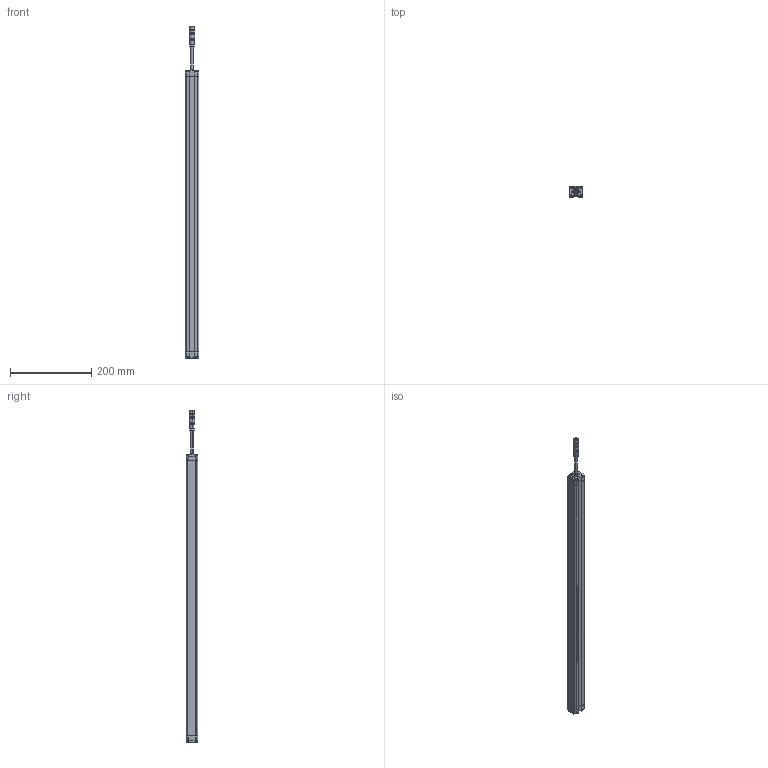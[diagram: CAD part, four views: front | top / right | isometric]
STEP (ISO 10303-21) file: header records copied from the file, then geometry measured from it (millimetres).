
FILE_DESCRIPTION((''),'2;1');
FILE_NAME('SMT1-CGQ_ASM','2025-08-08T08:29:12',('Administrator'),(''),'CREO PARAMETRIC BY PTC INC, 2016510','CREO PARAMETRIC BY PTC INC, 2016510','');
FILE_SCHEMA(('CONFIG_CONTROL_DESIGN'));
Length unit declared in the file: millimetre
Products named in the file (7): SMT1-XINGCAI-V1; SMT1-SDG-V1; SMT1-XDG-V1; M12-CHATOU; ST3X18; CT4-LVGUANGBAN; SMT1-CGQ_ASM
Assembly tree (13 placements, depth 2):
  SMT1-CGQ_ASM
    SMT1-XINGCAI-V1
    SMT1-SDG-V1
    SMT1-XDG-V1
    M12-CHATOU
    ST3X18  x8
    CT4-LVGUANGBAN
Bounding box: 33 x 28.02 x 819.5 mm (x, y, z)
Volume: 553036.5 mm3; surface area: 180536.1 mm2
Topology: 13 solids, 13 shells, 712 faces, 1868 edges, 1200 vertices
Faces by surface type: plane 382, cylinder 184, extrusion 86, sphere 32, cone 20, bspline 8
Entity records: 18128 total; most frequent: CARTESIAN_POINT 4347, ORIENTED_EDGE 2916, DIRECTION 2580, EDGE_CURVE 1458, VECTOR 1036, VERTEX_POINT 955, LINE 950, AXIS2_PLACEMENT_3D 772
